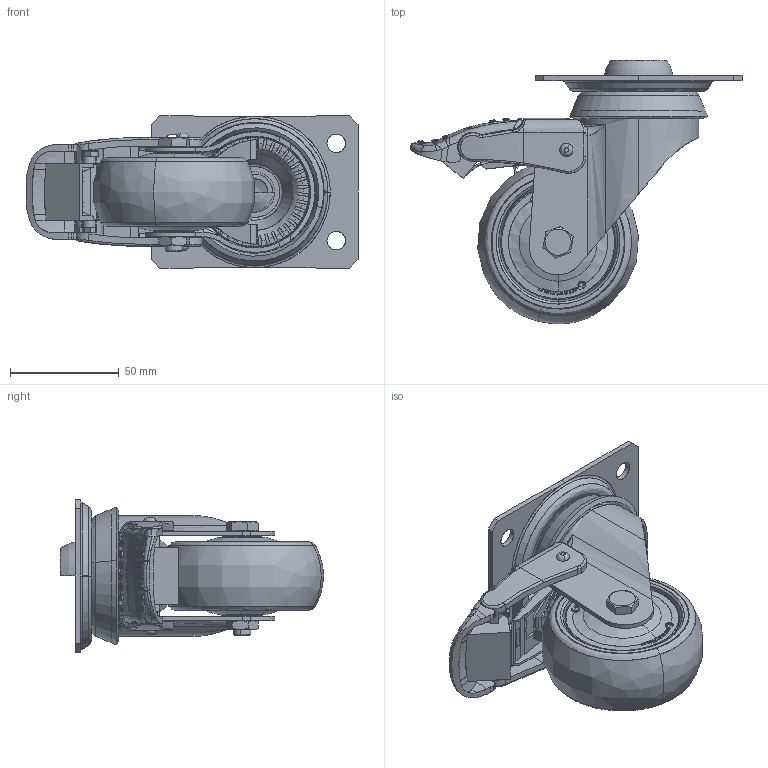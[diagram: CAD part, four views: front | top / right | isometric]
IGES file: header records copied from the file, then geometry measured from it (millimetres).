
Start section: SolidWorks IGES file using analytic representation for surfaces
Global section: file name: O:\ESI NP\IGES\300865_IGES.IGS; native system: SolidWorks 2011; preprocessor: SolidWorks 2011; author: MarkoLa; date: 130730.131337; units: millimetre
Bounding box: 152.53 x 121.07 x 70 mm (x, y, z)
Surface area: 126328.4 mm2 (no closed solid volume)
Topology: 0 solids, 0 shells, 2233 faces, 23690 edges, 23675 vertices
Faces by surface type: bspline 1670, revolution 563
